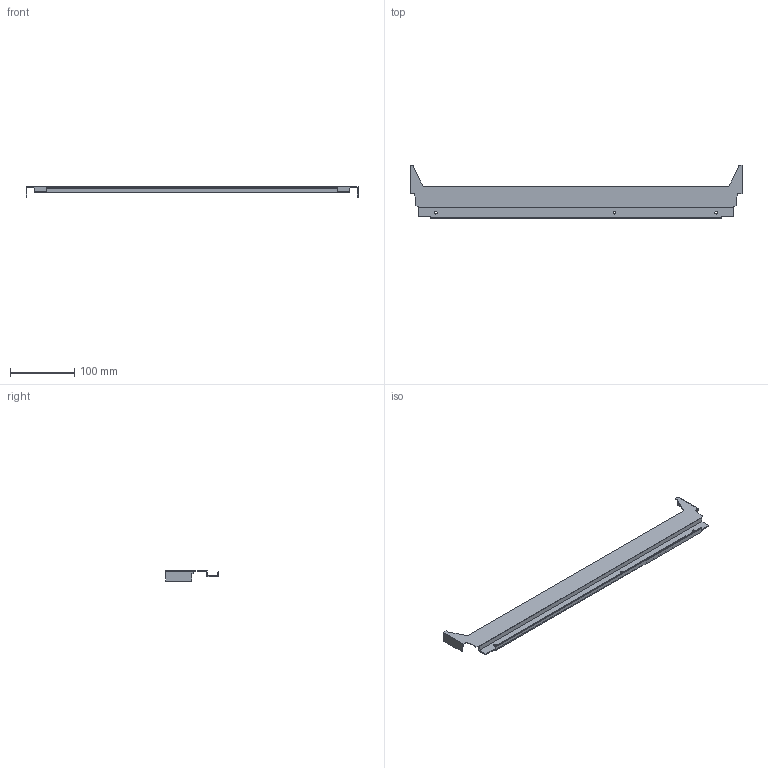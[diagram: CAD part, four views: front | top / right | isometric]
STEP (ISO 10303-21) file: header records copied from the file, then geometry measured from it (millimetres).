
FILE_DESCRIPTION (( 'STEP AP214' ), '1' );
FILE_NAME ('_DWD_XP Stahlrückwand_H86_KAB600_S16.step', '2010-07-08T12:00:22', ( 'grass' ), ( '' ), 'SwSTEP 2.0', 'SolidWorks 2010', '' );
FILE_SCHEMA (( 'AUTOMOTIVE_DESIGN' ));
Length unit declared in the file: millimetre
Products named in the file (1): _DWD_XP Stahlrückwand_H86_KAB600_S16
Bounding box: 517 x 83.29 x 16 mm (x, y, z)
Volume: 35093.8 mm3; surface area: 70071.3 mm2
Topology: 1 solids, 1 shells, 50 faces, 144 edges, 96 vertices
Faces by surface type: plane 44, cylinder 6
Entity records: 1666 total; most frequent: CARTESIAN_POINT 291, ORIENTED_EDGE 288, DIRECTION 258, EDGE_CURVE 144, VECTOR 132, LINE 132, VERTEX_POINT 96, AXIS2_PLACEMENT_3D 63
